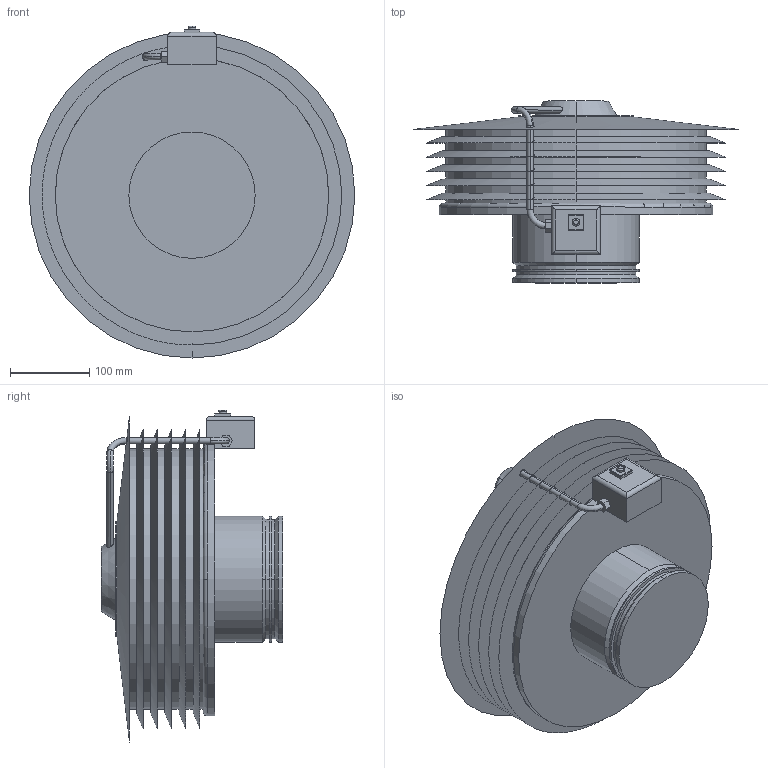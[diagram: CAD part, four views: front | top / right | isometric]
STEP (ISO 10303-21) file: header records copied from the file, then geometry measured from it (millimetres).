
FILE_DESCRIPTION(('STEP AP214'),'1');
FILE_NAME('fan_5136896200.stp','2017-03-31T18:13:19',('TraceParts'),('TraceParts S.A.'),'Spatial InterOp 3D',' ',' ');
FILE_SCHEMA(('automotive_design'));
Length unit declared in the file: millimetre
Products named in the file (1): fan_5136896200
Bounding box: 410 x 229 x 418 mm (x, y, z)
Volume: 12836870.3 mm3; surface area: 704964.6 mm2
Topology: 1 solids, 1 shells, 125 faces, 314 edges, 205 vertices
Faces by surface type: cylinder 48, plane 44, cone 18, torus 11, sphere 4
Entity records: 6255 total; most frequent: CARTESIAN_POINT 2267, DIRECTION 665, ORIENTED_EDGE 616, EDGE_CURVE 308, AXIS2_PLACEMENT_3D 271, VERTEX_POINT 205, EDGE_LOOP 159, CIRCLE 141
